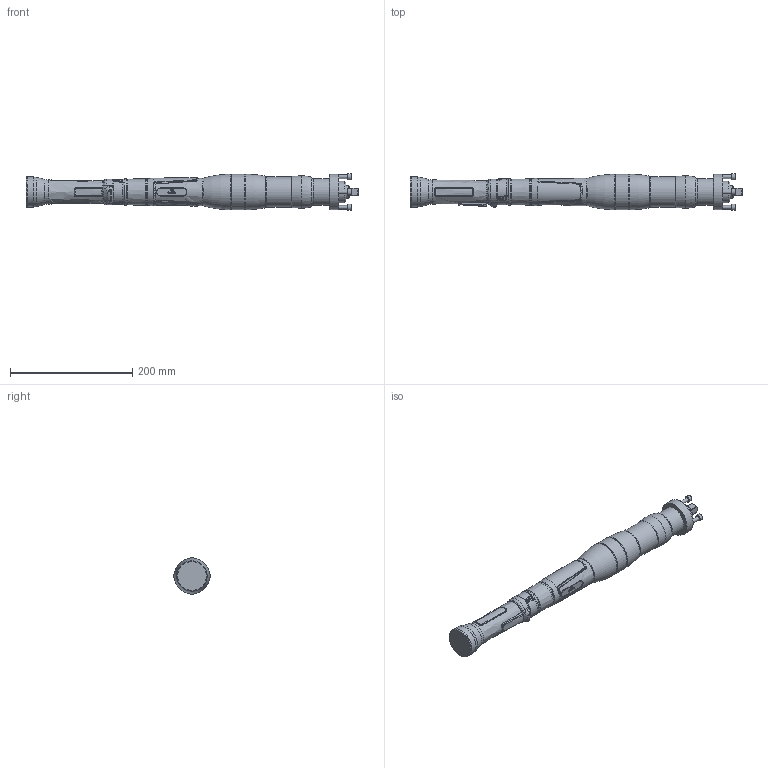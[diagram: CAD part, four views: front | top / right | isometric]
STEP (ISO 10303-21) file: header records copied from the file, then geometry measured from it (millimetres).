
FILE_DESCRIPTION (( 'STEP AP214' ), '1' );
FILE_NAME ('70058349_HSX2087ZV12.STEP', '2016-11-17T07:57:04', ( 'admin' ), ( '' ), 'SwSTEP 2.0', 'SolidWorks 2014', '' );
FILE_SCHEMA (( 'AUTOMOTIVE_DESIGN' ));
Length unit declared in the file: millimetre
Products named in the file (1): 70058349_HSX2087ZV12
Bounding box: 542.15 x 60 x 60 mm (x, y, z)
Volume: 848651.3 mm3; surface area: 108839.7 mm2
Topology: 4 solids, 4 shells, 1135 faces, 2795 edges, 1680 vertices
Faces by surface type: bspline 426, plane 255, cylinder 243, torus 139, cone 44, sphere 28
Full cylindrical faces by diameter (mm): 1.7 x2, 4 x1, 6 x4, 10 x4, 20 x1, 35 x1, 38 x1, 39 x1, 39.5 x1, 40.5 x1, 42 x2, 43.3 x1, 43.5 x2, 49 x1, 49.5 x1, 58 x4
Entity records: 50919 total; most frequent: CARTESIAN_POINT 25476, ORIENTED_EDGE 5266, DIRECTION 3859, EDGE_CURVE 2633, VERTEX_POINT 1640, AXIS2_PLACEMENT_3D 1548, EDGE_LOOP 1285, FACE_OUTER_BOUND 1208
